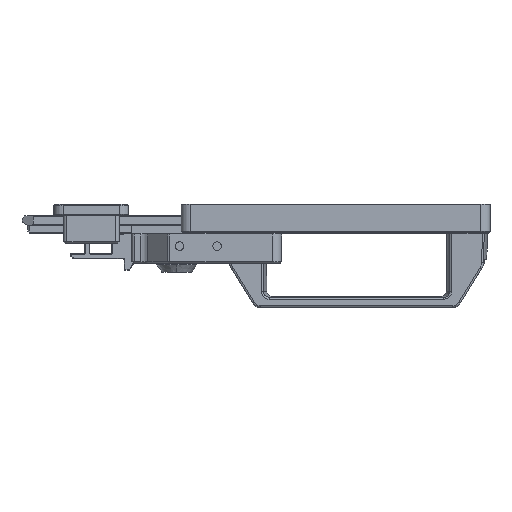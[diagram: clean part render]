
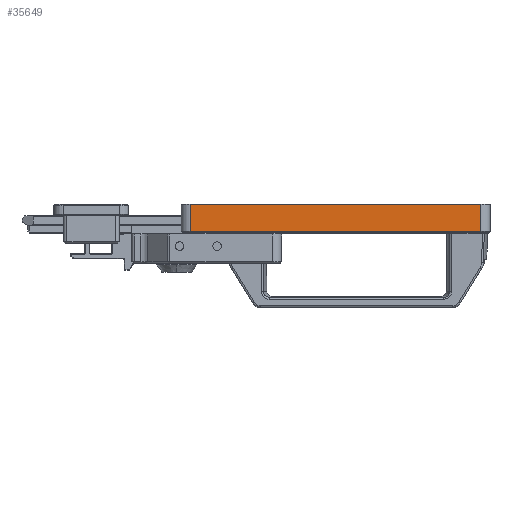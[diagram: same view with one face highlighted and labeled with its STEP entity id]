
A CAD part, left-side view. The second image highlights one B-rep face of the part: STEP entity #35649.
In plain terms, the highlighted planar face has unit normal (-1, 0, 0) as drawn and (0, -1, 0) by its records, which use the part's own axes.
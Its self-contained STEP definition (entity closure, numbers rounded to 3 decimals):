
#33722=DIRECTION('',(1.,0.,0.));
#33723=VECTOR('',#33722,155.);
#33724=CARTESIAN_POINT('',(-77.5,-31.,15.));
#33725=LINE('',#33724,#33723);
#33877=DIRECTION('',(-1.,0.,0.));
#33878=VECTOR('',#33877,155.);
#33879=CARTESIAN_POINT('',(77.5,-31.,
0.5));
#33880=LINE('',#33879,#33878);
#33881=DIRECTION('',(0.,0.,-1.));
#33882=VECTOR('',#33881,14.5);
#33883=CARTESIAN_POINT('',(-77.5,-31.,15.));
#33884=LINE('',#33883,#33882);
#33885=DIRECTION('',(0.,0.,-1.));
#33886=VECTOR('',#33885,14.5);
#33887=CARTESIAN_POINT('',(77.5,-31.,15.));
#33888=LINE('',#33887,#33886);
#34387=CARTESIAN_POINT('',(-77.5,-31.,15.));
#34389=VERTEX_POINT('',#34387);
#34394=CARTESIAN_POINT('',(77.5,-31.,15.));
#34396=VERTEX_POINT('',#34394);
#34407=CARTESIAN_POINT('',(77.5,-31.,0.5));
#34409=VERTEX_POINT('',#34407);
#34412=CARTESIAN_POINT('',(-77.5,-31.,
0.5));
#34413=VERTEX_POINT('',#34412);
#35638=CARTESIAN_POINT('',(-82.5,-31.,0.));
#35639=DIRECTION('',(0.,-1.,0.));
#35640=DIRECTION('',(1.,0.,0.));
#35641=AXIS2_PLACEMENT_3D('',#35638,#35639,#35640);
#35642=PLANE('',#35641);
#35643=ORIENTED_EDGE('',*,*,#35422,.T.);
#35644=ORIENTED_EDGE('',*,*,#35463,.F.);
#35645=ORIENTED_EDGE('',*,*,#35482,.T.);
#35646=ORIENTED_EDGE('',*,*,#35631,.T.);
#35647=EDGE_LOOP('',(#35643,#35644,#35645,#35646));
#35648=FACE_OUTER_BOUND('',#35647,.F.);
#35422=EDGE_CURVE('',#34409,#34413,#33880,.T.);
#35463=EDGE_CURVE('',#34389,#34413,#33884,.T.);
#35482=EDGE_CURVE('',#34389,#34396,#33725,.T.);
#35631=EDGE_CURVE('',#34396,#34409,#33888,.T.);
#35649=ADVANCED_FACE('',(#35648),#35642,.T.);
